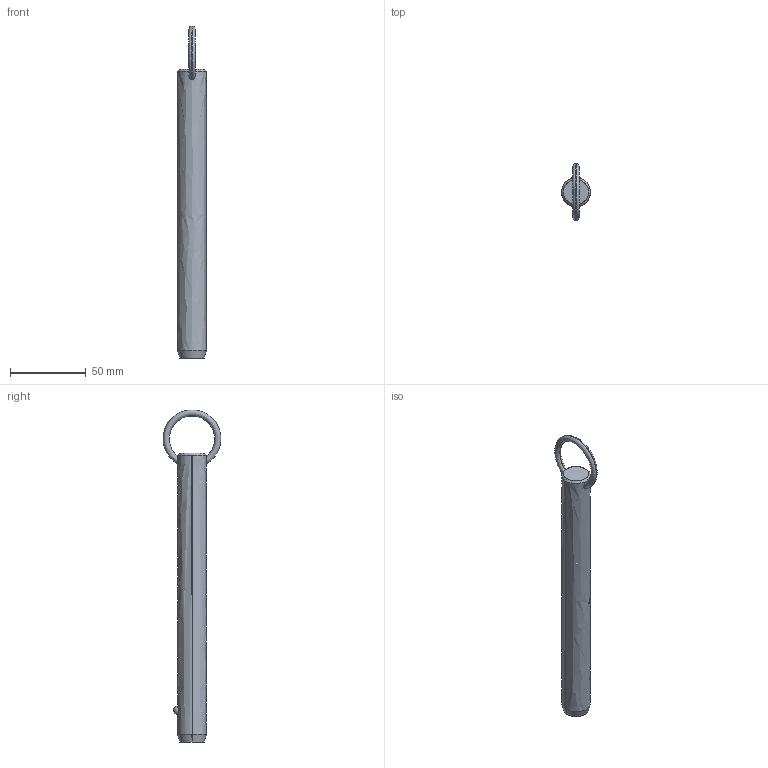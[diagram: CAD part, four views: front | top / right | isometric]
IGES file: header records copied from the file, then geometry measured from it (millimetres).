
Start section: SolidWorks IGES file using analytic representation for surfaces
Global section: file name: C:\Users\liam_\OneDrive\Documents\WORK\Work for WixRoyd\Job Files\J-00019 - Matt Davis CAD Checking\04. CAD Drawings\automotion20190605\P1250.2_v2\P1250.2_v2_20190729_IGES\P1250.075-620.igs; native system: SolidWorks 2017; preprocessor: SolidWorks 2017; author: liam_; date: 190729.235919; units: millimetre
Bounding box: 19 x 38.02 x 219.28 mm (x, y, z)
Surface area: 12915.7 mm2 (no closed solid volume)
Topology: 0 solids, 0 shells, 12 faces, 294 edges, 292 vertices
Faces by surface type: revolution 8, bspline 4
